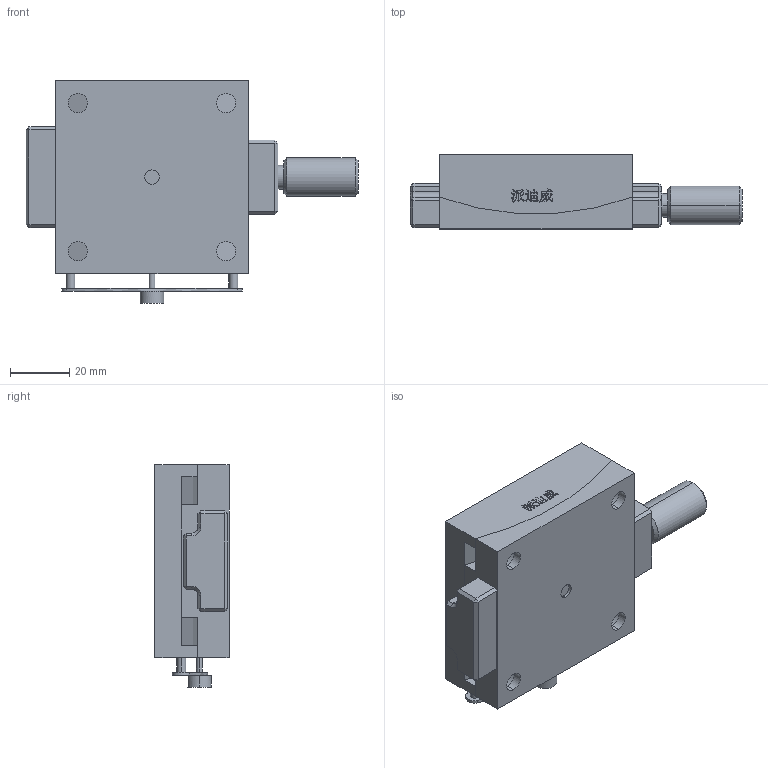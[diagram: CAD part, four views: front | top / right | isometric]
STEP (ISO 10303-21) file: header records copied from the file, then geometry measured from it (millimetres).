
FILE_DESCRIPTION (( 'STEP AP214' ), '1' );
FILE_NAME ('PT-SD308.STEP', '2022-09-03T08:47:47', ( '' ), ( '' ), 'SwSTEP 2.0', 'SolidWorks 2017', '' );
FILE_SCHEMA (( 'AUTOMOTIVE_DESIGN' ));
Length unit declared in the file: millimetre
Products named in the file (3): SJ110-10 忒雄褒弇怢怢醱; PT-SD308; SJ110-10 忒雄褒弇怢菁釱
Assembly tree (2 placements, depth 2):
  PT-SD308
    SJ110-10 忒雄褒弇怢菁釱
    SJ110-10 忒雄褒弇怢怢醱
Bounding box: 112 x 25 x 75 mm (x, y, z)
Volume: 107260.3 mm3; surface area: 30056.2 mm2
Topology: 2 solids, 2 shells, 362 faces, 931 edges, 590 vertices
Faces by surface type: plane 194, bspline 76, cylinder 68, cone 24
Entity records: 14325 total; most frequent: CARTESIAN_POINT 5888, ORIENTED_EDGE 1830, DIRECTION 1493, EDGE_CURVE 915, VECTOR 599, LINE 599, VERTEX_POINT 590, AXIS2_PLACEMENT_3D 447
